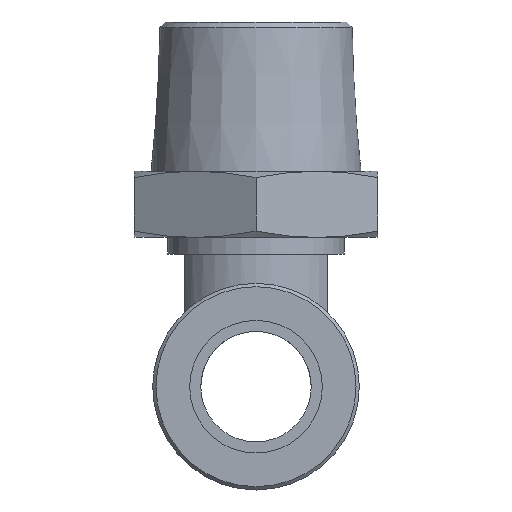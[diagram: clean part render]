
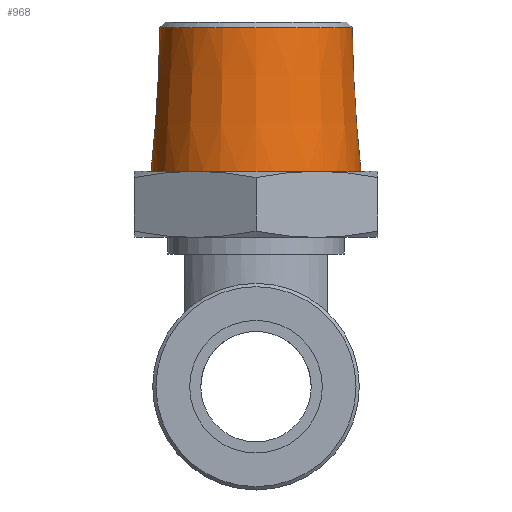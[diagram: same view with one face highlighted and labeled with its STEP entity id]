
A CAD part, front view. The second image highlights one B-rep face of the part: STEP entity #968.
In plain terms, the highlighted conical face has half-angle 3.5 degrees and reference radius 9.087 mm.
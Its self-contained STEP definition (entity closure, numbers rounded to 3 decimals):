
#82=CONICAL_SURFACE('',#1065,9.087,0.061);
#101=FACE_OUTER_BOUND('',#169,.T.);
#169=EDGE_LOOP('',(#664,#665,#666,#667,#668));
#255=LINE('',#1545,#305);
#305=VECTOR('',#1218,9.087);
#355=CIRCLE('',#1063,8.705);
#356=CIRCLE('',#1064,8.705);
#357=CIRCLE('',#1066,9.5);
#424=VERTEX_POINT('',#1538);
#425=VERTEX_POINT('',#1540);
#426=VERTEX_POINT('',#1544);
#515=EDGE_CURVE('',#424,#425,#355,.T.);
#516=EDGE_CURVE('',#425,#424,#356,.T.);
#517=EDGE_CURVE('',#425,#426,#255,.T.);
#518=EDGE_CURVE('',#426,#426,#357,.T.);
#664=ORIENTED_EDGE('',*,*,#515,.F.);
#665=ORIENTED_EDGE('',*,*,#516,.F.);
#666=ORIENTED_EDGE('',*,*,#517,.T.);
#667=ORIENTED_EDGE('',*,*,#518,.F.);
#668=ORIENTED_EDGE('',*,*,#517,.F.);
#968=ADVANCED_FACE('',(#101),#82,.T.);
#1063=AXIS2_PLACEMENT_3D('',#1541,#1212,#1213);
#1064=AXIS2_PLACEMENT_3D('',#1542,#1214,#1215);
#1065=AXIS2_PLACEMENT_3D('',#1543,#1216,#1217);
#1066=AXIS2_PLACEMENT_3D('',#1546,#1219,#1220);
#1212=DIRECTION('center_axis',(0.,0.,1.));
#1213=DIRECTION('ref_axis',(0.,-1.,0.));
#1214=DIRECTION('center_axis',(0.,0.,1.));
#1215=DIRECTION('ref_axis',(0.,-1.,0.));
#1216=DIRECTION('center_axis',(0.,0.,-1.));
#1217=DIRECTION('ref_axis',(0.,1.,0.));
#1218=DIRECTION('',(0.,-0.061,-0.998));
#1219=DIRECTION('center_axis',(0.,0.,-1.));
#1220=DIRECTION('ref_axis',(0.,1.,0.));
#1538=CARTESIAN_POINT('',(0.,8.705,32.501));
#1540=CARTESIAN_POINT('',(0.,-8.705,32.501));
#1541=CARTESIAN_POINT('Origin',(0.,0.,
32.501));
#1542=CARTESIAN_POINT('Origin',(0.,0.,
32.501));
#1543=CARTESIAN_POINT('Origin',(0.,0.,26.25));
#1544=CARTESIAN_POINT('',(0.,-9.5,19.5));
#1545=CARTESIAN_POINT('',(0.,-9.087,26.25));
#1546=CARTESIAN_POINT('Origin',(0.,0.,19.5));
